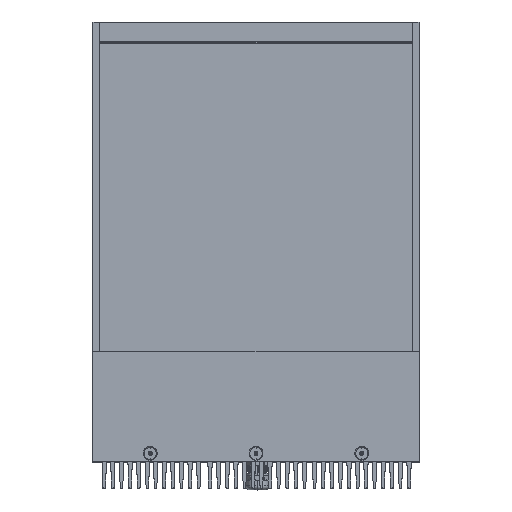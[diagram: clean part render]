
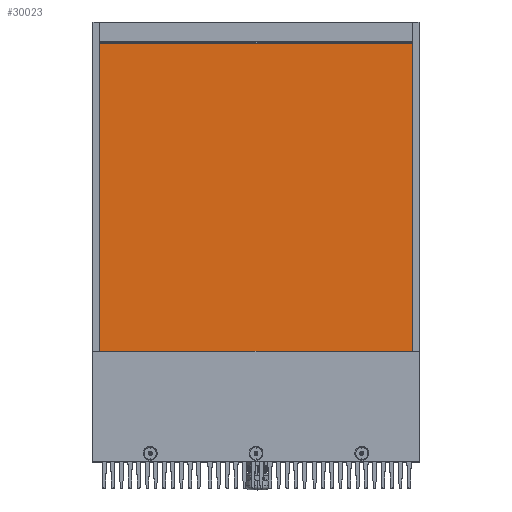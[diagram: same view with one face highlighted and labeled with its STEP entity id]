
A CAD part, top view. The second image highlights one B-rep face of the part: STEP entity #30023.
In plain terms, the highlighted planar face has unit normal (0, 0, 1) as drawn and (0, -1, 0) by its records, which use the part's own axes.
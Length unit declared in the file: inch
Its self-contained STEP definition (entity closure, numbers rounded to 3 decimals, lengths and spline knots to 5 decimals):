
#31 = LINE ( 'NONE', #36109, #13749 ) ;
#5136 = CARTESIAN_POINT ( 'NONE',  ( 6.18, -0.03935, 0. ) ) ;
#7639 = EDGE_CURVE ( 'NONE', #40180, #36394, #24056, .T. ) ;
#10968 = FACE_OUTER_BOUND ( 'NONE', #27352, .T. ) ;
#12337 = EDGE_CURVE ( 'NONE', #29488, #39351, #31, .T. ) ;
#13749 = VECTOR ( 'NONE', #14081, 39.37008 ) ;
#14081 = DIRECTION ( 'NONE',  ( 1., 0., 0. ) ) ;
#19107 = DIRECTION ( 'NONE',  ( 0., 0., -1. ) ) ;
#20946 = DIRECTION ( 'NONE',  ( 0., 0., -1. ) ) ;
#21398 = AXIS2_PLACEMENT_3D ( 'NONE', #34956, #42299, #20946 ) ;
#21719 = LINE ( 'NONE', #28716, #31460 ) ;
#23288 = CARTESIAN_POINT ( 'NONE',  ( 0., -0.03935, 0. ) ) ;
#24056 = LINE ( 'NONE', #35439, #38963 ) ;
#24890 = ORIENTED_EDGE ( 'NONE', *, *, #12337, .F. ) ;
#27352 = EDGE_LOOP ( 'NONE', ( #46484, #32598, #41703, #24890 ) ) ;
#28018 = PLANE ( 'NONE',  #21398 ) ;
#28716 = CARTESIAN_POINT ( 'NONE',  ( 6.18, -0.03935, 0. ) ) ;
#28929 = CARTESIAN_POINT ( 'NONE',  ( 6.18, -0.03935, -6. ) ) ;
#29488 = VERTEX_POINT ( 'NONE', #23288 ) ;
#30023 = ADVANCED_FACE ( 'NONE', ( #10968 ), #28018, .T. ) ;
#31460 = VECTOR ( 'NONE', #19107, 39.37008 ) ;
#32598 = ORIENTED_EDGE ( 'NONE', *, *, #7639, .F. ) ;
#33198 = EDGE_CURVE ( 'NONE', #36394, #29488, #43091, .T. ) ;
#34472 = EDGE_CURVE ( 'NONE', #39351, #40180, #21719, .T. ) ;
#34956 = CARTESIAN_POINT ( 'NONE',  ( 0., -0.03935, -6. ) ) ;
#35439 = CARTESIAN_POINT ( 'NONE',  ( 0., -0.03935, -6. ) ) ;
#35503 = CARTESIAN_POINT ( 'NONE',  ( 0., -0.03935, 0. ) ) ;
#36109 = CARTESIAN_POINT ( 'NONE',  ( 0., -0.03935, 0. ) ) ;
#36394 = VERTEX_POINT ( 'NONE', #38387 ) ;
#38387 = CARTESIAN_POINT ( 'NONE',  ( 0., -0.03935, -6. ) ) ;
#38963 = VECTOR ( 'NONE', #42776, 39.37008 ) ;
#39158 = DIRECTION ( 'NONE',  ( 0., 0., 1. ) ) ;
#39351 = VERTEX_POINT ( 'NONE', #5136 ) ;
#40180 = VERTEX_POINT ( 'NONE', #28929 ) ;
#41703 = ORIENTED_EDGE ( 'NONE', *, *, #34472, .F. ) ;
#42299 = DIRECTION ( 'NONE',  ( 0., -1., 0. ) ) ;
#42776 = DIRECTION ( 'NONE',  ( -1., 0., 0. ) ) ;
#43091 = LINE ( 'NONE', #35503, #45968 ) ;
#45968 = VECTOR ( 'NONE', #39158, 39.37008 ) ;
#46484 = ORIENTED_EDGE ( 'NONE', *, *, #33198, .F. ) ;
